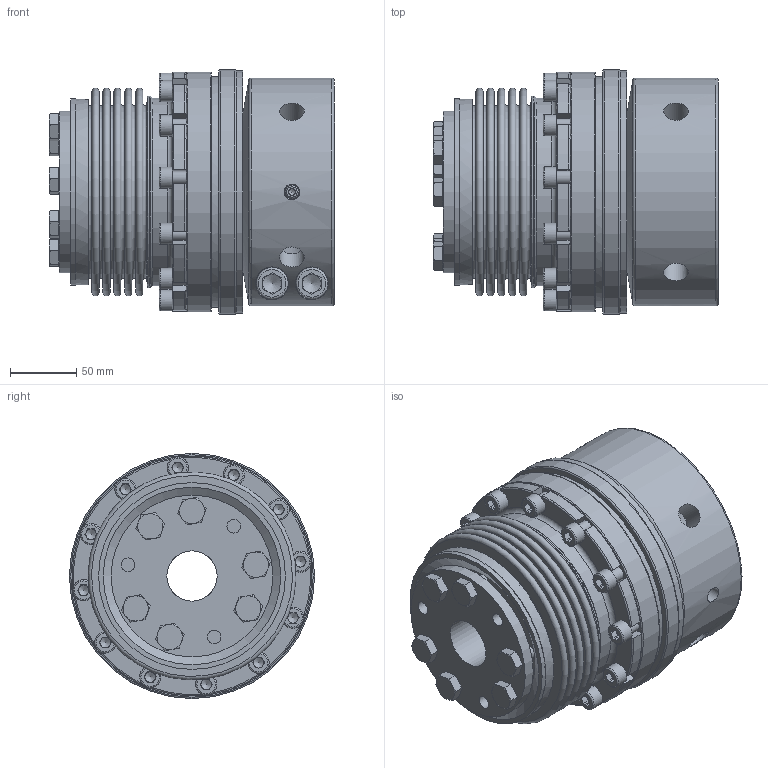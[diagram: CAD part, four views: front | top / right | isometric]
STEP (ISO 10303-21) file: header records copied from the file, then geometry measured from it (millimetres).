
FILE_DESCRIPTION( ( 'Unknown' ), '1' );
FILE_NAME( 'F:/PR/14_Step-Dateien/SKB-KS/SKB-KS 2000.stp', 'Unknown', ( 'Unknown' ), ( 'Unknown' ), 'PSStep 10.1', 'Unknown', ' ' );
FILE_SCHEMA( ( 'AUTOMOTIVE_DESIGN { 1 0 10303 214 1 1 1 1 }' ) );
Length unit declared in the file: millimetre
Products named in the file (1): kt101715-oa17
Bounding box: 215.24 x 185 x 185 mm (x, y, z)
Volume: 3082792 mm3; surface area: 570704.6 mm2
Topology: 1 solids, 5 shells, 865 faces, 2401 edges, 1535 vertices
Faces by surface type: plane 426, cylinder 161, torus 155, cone 81, sphere 30, bspline 12
Full cylindrical faces by diameter (mm): 7 x2, 8.5 x2, 10 x14, 10.2 x9, 12 x8, 12.5 x6, 14 x2, 16 x14, 16.5 x2, 17.2 x6, 18.5 x4, 24 x2, 25 x2, 38 x2, 79.35 x1, 100 x1, 107.7 x1, 109.8 x1, 110 x3, 115.2 x1, 117 x1, 120 x3, 122 x1, 123 x1, 128 x1, 130 x2, 135 x1, 137.5 x2, 139.9 x1, 140 x3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
Entity records: 37062 total; most frequent: CARTESIAN_POINT 10280, DIRECTION 4030, ORIENTED_EDGE 3934, EDGE_CURVE 1967, AXIS2_PLACEMENT_3D 1651, VERTEX_POINT 1355, EDGE_LOOP 1222, FACE_OUTER_BOUND 1001
